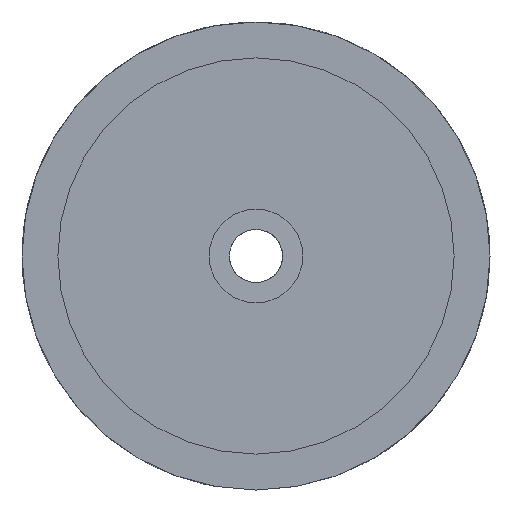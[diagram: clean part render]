
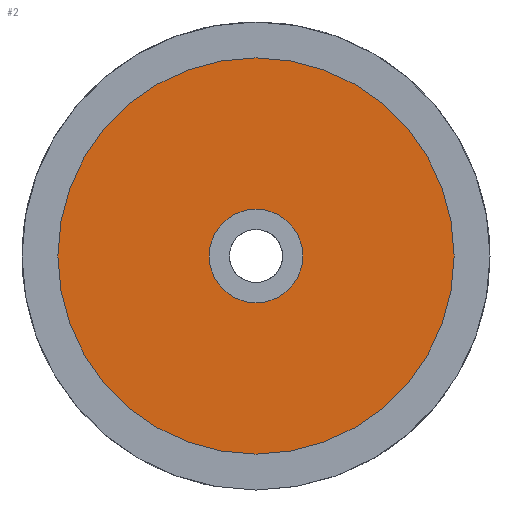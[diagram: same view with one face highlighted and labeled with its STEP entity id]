
A CAD part, front view. The second image highlights one B-rep face of the part: STEP entity #2.
In plain terms, the highlighted planar face has unit normal (0, -1, 0).
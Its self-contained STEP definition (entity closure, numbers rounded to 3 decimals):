
#2 = ADVANCED_FACE ( 'NONE', ( #270, #266 ), #919, .T. ) ;
#36 = EDGE_CURVE ( 'NONE', #131, #131, #214, .T. ) ;
#43 = EDGE_CURVE ( 'NONE', #125, #125, #206, .T. ) ;
#125 = VERTEX_POINT ( 'NONE', #587 ) ;
#131 = VERTEX_POINT ( 'NONE', #580 ) ;
#206 = CIRCLE ( 'NONE', #469, 3. ) ;
#214 = CIRCLE ( 'NONE', #466, 12.7 ) ;
#266 = FACE_OUTER_BOUND ( 'NONE', #453, .T. ) ;
#270 = FACE_BOUND ( 'NONE', #312, .T. ) ;
#312 = EDGE_LOOP ( 'NONE', ( #428 ) ) ;
#428 = ORIENTED_EDGE ( 'NONE', *, *, #43, .F. ) ;
#440 = ORIENTED_EDGE ( 'NONE', *, *, #36, .T. ) ;
#453 = EDGE_LOOP ( 'NONE', ( #440 ) ) ;
#464 = AXIS2_PLACEMENT_3D ( 'NONE', #930, #915, #918 ) ;
#466 = AXIS2_PLACEMENT_3D ( 'NONE', #673, #674, #675 ) ;
#469 = AXIS2_PLACEMENT_3D ( 'NONE', #716, #717, #718 ) ;
#580 = CARTESIAN_POINT ( 'NONE',  ( -4.684, -14.819, -12.7 ) ) ;
#587 = CARTESIAN_POINT ( 'NONE',  ( -4.684, -14.819, -3. ) ) ;
#673 = CARTESIAN_POINT ( 'NONE',  ( -4.684, -14.819, 0. ) ) ;
#674 = DIRECTION ( 'NONE',  ( 0., -1., 0. ) ) ;
#675 = DIRECTION ( 'NONE',  ( 0., 0., -1. ) ) ;
#716 = CARTESIAN_POINT ( 'NONE',  ( -4.684, -14.819, 0. ) ) ;
#717 = DIRECTION ( 'NONE',  ( 0., -1., 0. ) ) ;
#718 = DIRECTION ( 'NONE',  ( 0., 0., -1. ) ) ;
#915 = DIRECTION ( 'NONE',  ( 0., -1., 0. ) ) ;
#918 = DIRECTION ( 'NONE',  ( 0., 0., -1. ) ) ;
#919 = PLANE ( 'NONE',  #464 ) ;
#930 = CARTESIAN_POINT ( 'NONE',  ( 8.016, -14.819, 0. ) ) ;
